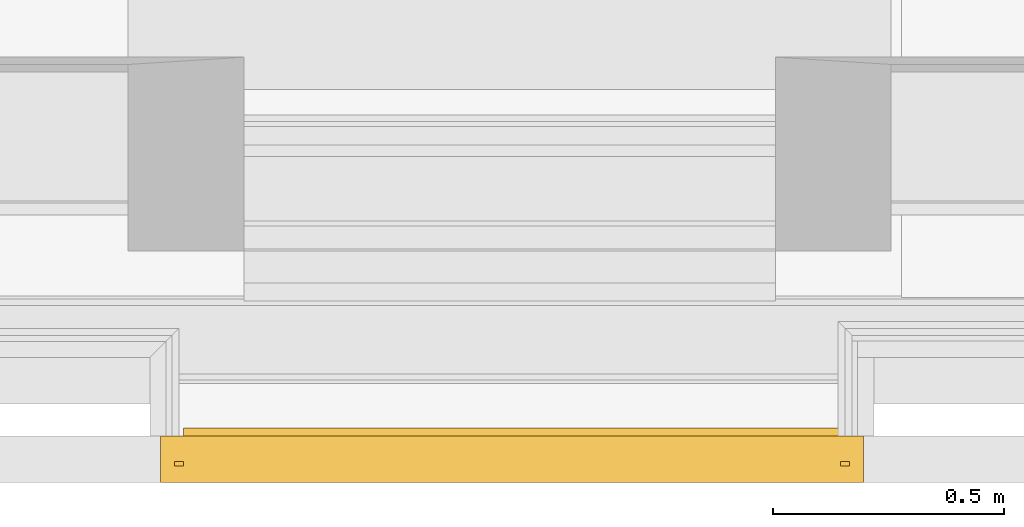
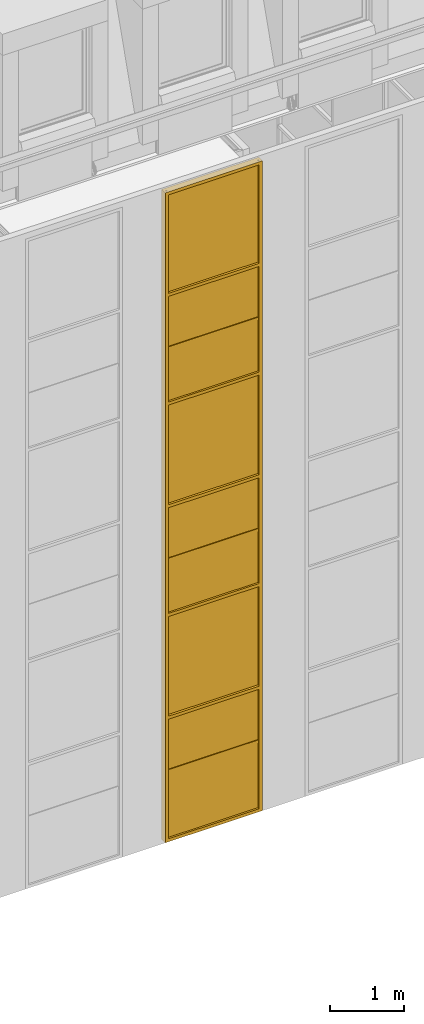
# One storey, part 124 of 169: 1 curtain wall.
"""IFC2X3 building model written with IfcOpenShell, lengths in metres."""

import ifcopenshell
import ifcopenshell.guid

model = None  # the IFC model being written
_history = None  # IfcOwnerHistory: only IFC2X3 demands one
_inside = {}  # id of a spatial element -> (the spatial element, [elements in it])
_under = {}  # id of a project, library or spatial element -> (it, [spatial elements below it])
_declared = {}  # id of a project -> (the project, [libraries it declares])
_typed = {}  # id of a type object -> (the type object, [elements of that type])
_made_of = {}  # id of a material, layer set ... -> (it, [elements and type objects made of it])


def new_model(schema):
    """Start an empty IFC model of exactly this schema.

    Asked for "IFC4X3", IfcOpenShell would pick the latest addendum, in which some entities
    have other attributes; the version numbers below select the first issue.
    IFC2X3 requires an IfcOwnerHistory on every rooted entity: one is made here for all.
    """
    global model, _history
    if schema == "IFC4X3":
        model = ifcopenshell.file(schema_version=(4, 3, 0, 0))
    else:
        model = ifcopenshell.file(schema=schema)
    _inside.clear()
    _under.clear()
    _declared.clear()
    _typed.clear()
    _made_of.clear()
    _history = None
    if model.schema == "IFC2X3":
        org = make("IfcOrganization", Name="unknown")
        user = make(
            "IfcPersonAndOrganization",
            ThePerson=make("IfcPerson", FamilyName="unknown"),
            TheOrganization=org,
        )
        app = make(
            "IfcApplication",
            ApplicationDeveloper=org,
            Version="unknown",
            ApplicationFullName="unknown",
            ApplicationIdentifier="unknown",
        )
        _history = make(
            "IfcOwnerHistory",
            OwningUser=user,
            OwningApplication=app,
            ChangeAction="ADDED",
            CreationDate=0,
        )
    return model


def make(cls, **values):
    """One entity of the class cls with the attributes given. An attribute that is None is left unset."""
    return model.create_entity(
        cls, **{name: value for name, value in values.items() if value is not None}
    )


def entity(cls, *values):
    """Any entity or typed value of the class cls, its attributes in the order of the schema. None: left unset."""
    e = model.create_entity(cls)
    for i, value in enumerate(values):
        if value is not None:
            e[i] = value
    return e


def rooted(cls, **values):
    """An entity with a GlobalId (a new one), such as an element, a storey or a relation."""
    return make(cls, GlobalId=ifcopenshell.guid.new(), OwnerHistory=_history, **values)


def si_unit(unit_type, name, prefix=None):
    """IfcSIUnit, for example si_unit("LENGTHUNIT", "METRE", prefix="MILLI")."""
    return make("IfcSIUnit", UnitType=unit_type, Prefix=prefix, Name=name)


def converted_unit(unit_type, name, factor, base, dimensions=None, offset=None):
    """IfcConversionBasedUnit, such as the inch: factor (a typed value) times the base unit."""
    return make(
        "IfcConversionBasedUnit"
        if offset is None
        else "IfcConversionBasedUnitWithOffset",
        ConversionOffset=offset,
        Dimensions=None
        if dimensions is None
        else entity("IfcDimensionalExponents", *dimensions),
        UnitType=unit_type,
        Name=name,
        ConversionFactor=make(
            "IfcMeasureWithUnit", ValueComponent=factor, UnitComponent=base
        ),
    )


def derived_unit(unit_type, elements):
    """IfcDerivedUnit: a product of units, each with its exponent."""
    return make(
        "IfcDerivedUnit",
        Elements=[
            make("IfcDerivedUnitElement", Unit=unit, Exponent=power)
            for unit, power in elements
        ],
        UnitType=unit_type,
    )


def money_unit(currency):
    """IfcMonetaryUnit."""
    return make("IfcMonetaryUnit", Currency=currency)


def assignment(units):
    """IfcUnitAssignment: the units of a project."""
    return None if units is None else make("IfcUnitAssignment", Units=units)


def point(xyz):
    """IfcCartesianPoint."""
    return None if xyz is None else make("IfcCartesianPoint", Coordinates=xyz)


def direction(xyz):
    """IfcDirection."""
    return None if xyz is None else make("IfcDirection", DirectionRatios=xyz)


def frame(location, z_axis=None, x_axis=None):
    """IfcAxis2Placement3D, a coordinate frame: its origin and axes. An axis left out is left unset."""
    return make(
        "IfcAxis2Placement3D",
        Location=point(location),
        Axis=direction(z_axis),
        RefDirection=direction(x_axis),
    )


def origin_with_axes():
    """The frame at (0, 0, 0) with the z axis (0, 0, 1) and the x axis (1, 0, 0) written out."""
    return frame((0.0, 0.0, 0.0), z_axis=(0.0, 0.0, 1.0), x_axis=(1.0, 0.0, 0.0))


def place(relative_to, where):
    """IfcLocalPlacement: puts the frame where relative to a parent placement (None: the world)."""
    return make(
        "IfcLocalPlacement", PlacementRelTo=relative_to, RelativePlacement=where
    )


def context(
    kind, dimensions, precision=None, world=None, true_north=None, identifier=None
):
    """IfcGeometricRepresentationContext, for example the 3D "Model" context."""
    return make(
        "IfcGeometricRepresentationContext",
        ContextIdentifier=identifier,
        ContextType=kind,
        CoordinateSpaceDimension=dimensions,
        Precision=precision,
        WorldCoordinateSystem=world,
        TrueNorth=true_north,
    )


def subcontext(parent, identifier, kind, view, scale=None):
    """IfcGeometricRepresentationSubContext, for example "Body" below "Model"."""
    return make(
        "IfcGeometricRepresentationSubContext",
        ContextIdentifier=identifier,
        ContextType=kind,
        ParentContext=parent,
        TargetScale=scale,
        TargetView=view,
    )


def project(units=None, contexts=None):
    """IfcProject with its units and contexts."""
    return rooted(
        "IfcProject",
        Name="project",
        RepresentationContexts=contexts,
        UnitsInContext=assignment(units),
    )


def spatial(cls, under=None, at=None, **own):
    """A site, building, storey or space (cls), placed at a placement, below another one or the project."""
    s = rooted(cls, ObjectPlacement=at, **own)
    if under is not None:
        _under.setdefault(under.id(), (under, []))[1].append(s)
    return s


def faces_of(points, faces, orient=None, outer=None):
    """IfcFace entities. A face is a list of loops; a loop is a list of indices into points, from 0.

    orient and outer hold one flag for each loop. By default every Orientation is true, the
    first loop of a face is its IfcFaceOuterBound and the others are IfcFaceBound.
    """
    made = []
    for i, loops in enumerate(faces):
        bounds = []
        for j, loop in enumerate(loops):
            is_outer = j == 0 if outer is None else outer[i][j]
            bounds.append(
                make(
                    "IfcFaceOuterBound" if is_outer else "IfcFaceBound",
                    Bound=make("IfcPolyLoop", Polygon=[points[k] for k in loop]),
                    Orientation=True if orient is None else orient[i][j],
                )
            )
        made.append(make("IfcFace", Bounds=bounds))
    return made


def faceted_brep(points, faces, orient=None, outer=None, voids=None):
    """IfcFacetedBrep: a solid bounded by flat faces; with voids (closed shells), ...WithVoids."""
    shared = [point(p) for p in points]
    hull = make("IfcClosedShell", CfsFaces=faces_of(shared, faces, orient, outer))
    if voids is None:
        return make("IfcFacetedBrep", Outer=hull)
    return make(
        "IfcFacetedBrepWithVoids",
        Outer=hull,
        Voids=[
            make(cls, CfsFaces=faces_of(shared, fs, o, b)) for cls, fs, o, b in voids
        ],
    )


def shape(context_of_items, identifier, shape_type, items):
    """IfcShapeRepresentation: the items that make up one representation, for example the "Body"."""
    return make(
        "IfcShapeRepresentation",
        ContextOfItems=context_of_items,
        RepresentationIdentifier=identifier,
        RepresentationType=shape_type,
        Items=items,
    )


def material(Name=None, Category=None):
    """IfcMaterial."""
    return make("IfcMaterial", Name=Name, Category=Category)


def made_of(thing, what):
    """Note that an element or type object is made of a material, layer set ...; save() writes the relation."""
    if what is not None:
        _made_of.setdefault(what.id(), (what, []))[1].append(thing)
    return thing


def type_object(cls, material=None, **own):
    """A type object (cls), such as IfcWallType, which elements share."""
    return made_of(rooted(cls, **own), material)


def element(
    cls,
    number,
    at=None,
    inside=None,
    cuts=None,
    type_object=None,
    material=None,
    context=None,
    identifier="Body",
    shape_type=None,
    held_by="IfcProductDefinitionShape",
    body=None,
    shapes=None,
    **own,
):
    """One element of the class cls, such as IfcWall. Its Tag is "e" and its number.

    at: its placement. inside: the storey or other place that contains it. cuts: it is an
    opening in that element (IfcRelVoidsElement). A single representation is given by context,
    identifier, shape_type and body (its items); several are given by shapes. held_by: the class
    of the entity that holds the representations. save() writes the other relations.
    """
    e = rooted(cls, Tag="e%d" % number, ObjectPlacement=at, **own)
    if body is not None:
        shapes = [shape(context, identifier, shape_type, body)]
    if shapes is not None:
        e.Representation = make(held_by, Representations=shapes)
    if inside is not None:
        _inside.setdefault(inside.id(), (inside, []))[1].append(e)
    if cuts is not None:
        rooted(
            "IfcRelVoidsElement", RelatingBuildingElement=cuts, RelatedOpeningElement=e
        )
    if type_object is not None:
        _typed.setdefault(type_object.id(), (type_object, []))[1].append(e)
    return made_of(e, material)


def aggregate(whole, parts):
    """IfcRelAggregates: a whole, such as a stair, and the parts it consists of."""
    return rooted("IfcRelAggregates", RelatingObject=whole, RelatedObjects=parts)


def save(model, path):
    """Write the relations noted so far, then the file.

    IfcRelAggregates (storeys below a building ...), IfcRelContainedInSpatialStructure (elements
    in a storey), IfcRelDefinesByType, IfcRelAssociatesMaterial and IfcRelDeclares: one each for
    every whole, place, type object, material and project.
    """
    for whole, parts in _under.values():
        aggregate(whole, parts)
    for where, things in _inside.values():
        rooted(
            "IfcRelContainedInSpatialStructure",
            RelatedElements=things,
            RelatingStructure=where,
        )
    for kind, things in _typed.values():
        rooted("IfcRelDefinesByType", RelatedObjects=things, RelatingType=kind)
    for what, things in _made_of.values():
        rooted("IfcRelAssociatesMaterial", RelatedObjects=things, RelatingMaterial=what)
    for by, libraries in _declared.values():
        rooted("IfcRelDeclares", RelatingContext=by, RelatedDefinitions=libraries)
    model.write(path)


model = new_model("IFC2X3")

# Units and contexts
model_context = context("Model", 3, precision=1e-05, world=origin_with_axes(), true_north=direction((0.0, 1.0)))
body_context = subcontext(model_context, "Body", "Model", "MODEL_VIEW", scale=1.0)
ifc_project = project(units=[si_unit("LENGTHUNIT", "METRE"), si_unit("AREAUNIT", "SQUARE_METRE"), si_unit("VOLUMEUNIT", "CUBIC_METRE"), si_unit("ABSORBEDDOSEUNIT", "GRAY"), si_unit("AMOUNTOFSUBSTANCEUNIT", "MOLE"), si_unit("DOSEEQUIVALENTUNIT", "SIEVERT"), si_unit("ELECTRICCAPACITANCEUNIT", "FARAD"), si_unit("ELECTRICCHARGEUNIT", "COULOMB"), si_unit("ELECTRICCONDUCTANCEUNIT", "SIEMENS"), si_unit("ELECTRICCURRENTUNIT", "AMPERE"), si_unit("ELECTRICRESISTANCEUNIT", "OHM"), si_unit("ELECTRICVOLTAGEUNIT", "VOLT"), si_unit("ENERGYUNIT", "JOULE"), si_unit("FORCEUNIT", "NEWTON"), si_unit("FREQUENCYUNIT", "HERTZ"), si_unit("ILLUMINANCEUNIT", "LUX"), si_unit("INDUCTANCEUNIT", "HENRY"), si_unit("LUMINOUSFLUXUNIT", "LUMEN"), si_unit("LUMINOUSINTENSITYUNIT", "CANDELA"), si_unit("MAGNETICFLUXDENSITYUNIT", "TESLA"), si_unit("MAGNETICFLUXUNIT", "WEBER"), si_unit("MASSUNIT", "GRAM"), converted_unit("PLANEANGLEUNIT", "degree", entity("IfcReal", 0.0174532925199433), si_unit("PLANEANGLEUNIT", "RADIAN"), dimensions=[0, 0, 0, 0, 0, 0, 0]), si_unit("POWERUNIT", "WATT"), si_unit("PRESSUREUNIT", "PASCAL"), si_unit("RADIOACTIVITYUNIT", "BECQUEREL"), si_unit("SOLIDANGLEUNIT", "STERADIAN"), si_unit("THERMODYNAMICTEMPERATUREUNIT", "KELVIN"), si_unit("TIMEUNIT", "SECOND"), derived_unit("ACCELERATIONUNIT", [(si_unit("LENGTHUNIT", "METRE"), 1), (si_unit("TIMEUNIT", "SECOND"), -2)]), derived_unit("ANGULARVELOCITYUNIT", [(converted_unit("PLANEANGLEUNIT", "degree", entity("IfcReal", 0.0174532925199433), si_unit("PLANEANGLEUNIT", "RADIAN"), dimensions=[0, 0, 0, 0, 0, 0, 0]), 1), (si_unit("TIMEUNIT", "SECOND"), -1)]), derived_unit("CURVATUREUNIT", [(converted_unit("PLANEANGLEUNIT", "degree", entity("IfcReal", 0.0174532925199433), si_unit("PLANEANGLEUNIT", "RADIAN"), dimensions=[0, 0, 0, 0, 0, 0, 0]), 1), (si_unit("LENGTHUNIT", "METRE"), -1)]), derived_unit("DYNAMICVISCOSITYUNIT", [(si_unit("PRESSUREUNIT", "PASCAL"), 1), (si_unit("TIMEUNIT", "SECOND"), 1)]), derived_unit("HEATFLUXDENSITYUNIT", [(si_unit("POWERUNIT", "WATT"), 1), (si_unit("LENGTHUNIT", "METRE"), -2)]), derived_unit("HEATINGVALUEUNIT", [(si_unit("ENERGYUNIT", "JOULE"), 1), (si_unit("MASSUNIT", "GRAM"), -1)]), derived_unit("INTEGERCOUNTRATEUNIT", [(si_unit("TIMEUNIT", "SECOND"), -1)]), derived_unit("IONCONCENTRATIONUNIT", [(si_unit("MASSUNIT", "GRAM"), 1), (si_unit("VOLUMEUNIT", "CUBIC_METRE"), -1)]), derived_unit("ISOTHERMALMOISTURECAPACITYUNIT", [(si_unit("VOLUMEUNIT", "CUBIC_METRE"), 1), (si_unit("MASSUNIT", "GRAM"), -1)]), derived_unit("KINEMATICVISCOSITYUNIT", [(si_unit("AREAUNIT", "SQUARE_METRE"), 1), (si_unit("TIMEUNIT", "SECOND"), -1)]), derived_unit("LINEARFORCEUNIT", [(si_unit("FORCEUNIT", "NEWTON"), 1), (si_unit("LENGTHUNIT", "METRE"), -1)]), derived_unit("LINEARMOMENTUNIT", [(si_unit("FORCEUNIT", "NEWTON"), 1), (si_unit("LENGTHUNIT", "METRE"), -1)]), derived_unit("LINEARSTIFFNESSUNIT", [(si_unit("FORCEUNIT", "NEWTON"), 1), (si_unit("LENGTHUNIT", "METRE"), -1)]), derived_unit("LINEARVELOCITYUNIT", [(si_unit("LENGTHUNIT", "METRE"), 1), (si_unit("TIMEUNIT", "SECOND"), -1)]), derived_unit("LUMINOUSINTENSITYDISTRIBUTIONUNIT", [(si_unit("LUMINOUSINTENSITYUNIT", "CANDELA"), 1), (si_unit("LUMINOUSFLUXUNIT", "LUMEN"), -1)]), derived_unit("MASSDENSITYUNIT", [(si_unit("MASSUNIT", "GRAM"), 1), (si_unit("VOLUMEUNIT", "CUBIC_METRE"), -1)]), derived_unit("MASSFLOWRATEUNIT", [(si_unit("MASSUNIT", "GRAM"), 1), (si_unit("TIMEUNIT", "SECOND"), -1)]), derived_unit("MASSPERLENGTHUNIT", [(si_unit("MASSUNIT", "GRAM"), 1), (si_unit("LENGTHUNIT", "METRE"), -1)]), derived_unit("MODULUSOFELASTICITYUNIT", [(si_unit("FORCEUNIT", "NEWTON"), 1), (si_unit("AREAUNIT", "SQUARE_METRE"), -1)]), derived_unit("MODULUSOFLINEARSUBGRADEREACTIONUNIT", [(si_unit("FORCEUNIT", "NEWTON"), 1), (si_unit("LENGTHUNIT", "METRE"), -2)]), derived_unit("MODULUSOFROTATIONALSUBGRADEREACTIONUNIT", [(si_unit("FORCEUNIT", "NEWTON"), 1), (si_unit("LENGTHUNIT", "METRE"), 1)]), derived_unit("MODULUSOFSUBGRADEREACTIONUNIT", [(si_unit("FORCEUNIT", "NEWTON"), 1), (si_unit("VOLUMEUNIT", "CUBIC_METRE"), -1)]), derived_unit("MOISTUREDIFFUSIVITYUNIT", [(si_unit("VOLUMEUNIT", "CUBIC_METRE"), 1), (si_unit("TIMEUNIT", "SECOND"), -1)]), derived_unit("MOLECULARWEIGHTUNIT", [(si_unit("MASSUNIT", "GRAM"), 1), (si_unit("AMOUNTOFSUBSTANCEUNIT", "MOLE"), -1)]), derived_unit("PLANARFORCEUNIT", [(si_unit("FORCEUNIT", "NEWTON"), 1), (si_unit("LENGTHUNIT", "METRE"), -2)]), derived_unit("ROTATIONALFREQUENCYUNIT", [(si_unit("TIMEUNIT", "SECOND"), -1)]), derived_unit("ROTATIONALMASSUNIT", [(si_unit("MASSUNIT", "GRAM"), 1), (si_unit("LENGTHUNIT", "METRE"), 2)]), derived_unit("ROTATIONALSTIFFNESSUNIT", [(si_unit("FORCEUNIT", "NEWTON"), 1), (si_unit("LENGTHUNIT", "METRE"), 1), (converted_unit("PLANEANGLEUNIT", "degree", entity("IfcReal", 0.0174532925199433), si_unit("PLANEANGLEUNIT", "RADIAN"), dimensions=[0, 0, 0, 0, 0, 0, 0]), -1)]), derived_unit("SECTIONAREAINTEGRALUNIT", [(si_unit("LENGTHUNIT", "METRE"), 5)]), derived_unit("SECTIONMODULUSUNIT", [(si_unit("LENGTHUNIT", "METRE"), 3)]), derived_unit("SHEARMODULUSUNIT", [(si_unit("FORCEUNIT", "NEWTON"), 1), (si_unit("AREAUNIT", "SQUARE_METRE"), -1)]), derived_unit("SOUNDPOWERUNIT", [(si_unit("ENERGYUNIT", "JOULE"), 1), (si_unit("TIMEUNIT", "SECOND"), -1)]), derived_unit("SPECIFICHEATCAPACITYUNIT", [(si_unit("FORCEUNIT", "NEWTON"), 1), (si_unit("MASSUNIT", "GRAM"), -1), (si_unit("THERMODYNAMICTEMPERATUREUNIT", "KELVIN"), -1)]), derived_unit("TEMPERATUREGRADIENTUNIT", [(si_unit("THERMODYNAMICTEMPERATUREUNIT", "KELVIN"), 1), (si_unit("LENGTHUNIT", "METRE"), -1)]), derived_unit("THERMALADMITTANCEUNIT", [(si_unit("POWERUNIT", "WATT"), 1), (si_unit("AREAUNIT", "SQUARE_METRE"), -1), (si_unit("THERMODYNAMICTEMPERATUREUNIT", "KELVIN"), -1)]), derived_unit("THERMALCONDUCTANCEUNIT", [(si_unit("POWERUNIT", "WATT"), 1), (si_unit("LENGTHUNIT", "METRE"), -1), (si_unit("THERMODYNAMICTEMPERATUREUNIT", "KELVIN"), -1)]), derived_unit("THERMALEXPANSIONCOEFFICIENTUNIT", [(si_unit("THERMODYNAMICTEMPERATUREUNIT", "KELVIN"), -1)]), derived_unit("THERMALRESISTANCEUNIT", [(si_unit("AREAUNIT", "SQUARE_METRE"), 1), (si_unit("POWERUNIT", "WATT"), -1)]), derived_unit("THERMALTRANSMITTANCEUNIT", [(si_unit("POWERUNIT", "WATT"), 1), (si_unit("AREAUNIT", "SQUARE_METRE"), -1), (si_unit("THERMODYNAMICTEMPERATUREUNIT", "KELVIN"), -1)]), derived_unit("TORQUEUNIT", [(si_unit("FORCEUNIT", "NEWTON"), 1), (si_unit("LENGTHUNIT", "METRE"), 1)]), derived_unit("VAPORPERMEABILITYUNIT", [(si_unit("MASSUNIT", "GRAM"), 1), (si_unit("TIMEUNIT", "SECOND"), -1)]), derived_unit("VOLUMETRICFLOWRATEUNIT", [(si_unit("VOLUMEUNIT", "CUBIC_METRE"), 1), (si_unit("TIMEUNIT", "SECOND"), -1)]), derived_unit("WARPINGCONSTANTUNIT", [(si_unit("LENGTHUNIT", "METRE"), 6)]), derived_unit("WARPINGMOMENTUNIT", [(si_unit("FORCEUNIT", "NEWTON"), 1), (si_unit("LENGTHUNIT", "METRE"), 2)]), money_unit("GBP")], contexts=[model_context])

# Site, building, storey
site_placement = place(None, origin_with_axes())
site = spatial("IfcSite", under=ifc_project, at=site_placement, Name="Site", CompositionType="ELEMENT")
building_placement = place(site_placement, origin_with_axes())
building = spatial("IfcBuilding", under=site, at=building_placement, Name="Building01", CompositionType="ELEMENT")
storey_placement = place(building_placement, frame((0.0, 0.0, 5.15), z_axis=(0.0, 0.0, 1.0), x_axis=(1.0, 0.0, 0.0)))
storey = spatial("IfcBuildingStorey", under=building, at=storey_placement, Name="1F", CompositionType="ELEMENT", Elevation=5.15)

# Curtain wall
ifc_material = material(Name="A-CurtainWall_Frame")
curtain_wall_type = type_object("IfcCurtainWallType", Name="Pattern - Maximum Spacing", PredefinedType="NOTDEFINED")
curtain_wall_placement = place(storey_placement, frame((0.0, 0.0, -5.15), z_axis=(0.0, 0.0, 1.0), x_axis=(1.0, 0.0, 0.0)))
element("IfcCurtainWall", 1, at=curtain_wall_placement, inside=storey, type_object=curtain_wall_type, material=ifc_material, Name="25", ObjectType="Pattern - Maximum Spacing", context=body_context, shape_type="Brep", body=[
    faceted_brep([(20.44, 0.05, 4.0), (20.44, 0.03, 4.0), (20.44, 0.03, 5.118945), (20.44, 0.05, 5.118945), (21.9, 0.05, 4.0), (21.9, 0.03, 4.0), (21.9, 0.05, 5.118945), (21.9, 0.03, 5.118945)], [[[0, 1, 2, 3]], [[4, 5, 1, 0]], [[6, 7, 5, 4]], [[3, 2, 7, 6]], [[1, 5, 7, 2]], [[3, 6, 4, 0]]]),
    faceted_brep([(20.46, 0.045, 3.97), (20.44, 0.045, 3.97), (20.44, 0.035, 3.97), (20.46, 0.035, 3.97), (20.46, 0.0, 3.97), (20.41, 0.0, 3.97), (20.41, 0.1, 3.97), (20.46, 0.1, 3.97), (20.46, 0.1, 5.123945), (20.46, 0.045, 5.123945), (20.44, 0.045, 5.123945), (20.44, 0.035, 5.123945), (20.46, 0.035, 5.123945), (20.46, 0.0, 5.123945), (20.41, 0.0, 5.123945), (20.41, 0.1, 5.123945)], [[[0, 1, 2, 3, 4, 5, 6, 7]], [[7, 8, 9, 0]], [[0, 9, 10, 1]], [[1, 10, 11, 2]], [[2, 11, 12, 3]], [[3, 12, 13, 4]], [[4, 13, 14, 5]], [[5, 14, 15, 6]], [[6, 15, 8, 7]]]),
    faceted_brep([(21.88, 0.045, 4.0), (21.88, 0.035, 4.0), (21.88, 0.035, 4.02), (21.88, 0.0, 4.02), (21.88, 0.0, 3.97), (21.88, 0.1, 3.97), (21.88, 0.1, 4.02), (21.88, 0.045, 4.02), (20.46, 0.045, 4.02), (20.46, 0.045, 4.0), (20.46, 0.035, 4.0), (20.46, 0.035, 4.02), (20.46, 0.0, 4.02), (20.46, 0.0, 3.97), (20.46, 0.1, 3.97), (20.46, 0.1, 4.02)], [[[0, 1, 2, 3, 4, 5, 6, 7]], [[7, 8, 9, 0]], [[0, 9, 10, 1]], [[1, 10, 11, 2]], [[2, 11, 12, 3]], [[3, 12, 13, 4]], [[4, 13, 14, 5]], [[5, 14, 15, 6]], [[6, 15, 8, 7]], [[8, 15, 14, 13, 12, 11, 10, 9]]]),
    faceted_brep([(21.88, 0.045, 3.97), (21.88, 0.045, 5.123945), (21.88, 0.1, 5.123945), (21.88, 0.1, 3.97), (21.9, 0.045, 3.97), (21.9, 0.045, 5.123945), (21.9, 0.035, 3.97), (21.9, 0.035, 5.123945), (21.88, 0.035, 3.97), (21.88, 0.035, 5.123945), (21.88, 0.0, 3.97), (21.88, 0.0, 5.123945), (21.93, 0.0, 3.97), (21.93, 0.0, 5.123945), (21.93, 0.1, 3.97), (21.93, 0.1, 5.123945)], [[[0, 1, 2, 3]], [[4, 5, 1, 0]], [[6, 7, 5, 4]], [[8, 9, 7, 6]], [[10, 11, 9, 8]], [[12, 13, 11, 10]], [[14, 15, 13, 12]], [[3, 2, 15, 14]], [[14, 12, 10, 8, 6, 4, 0, 3]]]),
    faceted_brep([(20.46, 0.0625, 5.118945), (20.46, 0.0525, 5.118945), (20.46, 0.0525, 5.098945), (20.46, 0.0175, 5.098945), (20.46, 0.0175, 5.148945), (20.46, 0.0525, 5.148945), (20.46, 0.0525, 5.128945), (20.46, 0.0625, 5.128945), (20.46, 0.0625, 5.148945), (20.46, 0.1175, 5.148945), (20.46, 0.1175, 5.098945), (20.46, 0.0625, 5.098945), (21.88, 0.0625, 5.098945), (21.88, 0.0625, 5.118945), (21.88, 0.0525, 5.118945), (21.88, 0.0525, 5.098945), (21.88, 0.0175, 5.098945), (21.88, 0.0175, 5.148945), (21.88, 0.0525, 5.148945), (21.88, 0.0625, 5.128945), (21.88, 0.0625, 5.148945), (21.88, 0.0525, 5.128945), (21.88, 0.1175, 5.098945), (21.88, 0.1175, 5.148945)], [[[0, 1, 2, 3, 4, 5, 6, 7, 8, 9, 10, 11]], [[11, 12, 13, 0]], [[0, 13, 14, 1]], [[1, 14, 15, 2]], [[2, 15, 16, 3]], [[3, 16, 17, 4]], [[4, 17, 18, 5]], [[7, 19, 20, 8]], [[6, 21, 19, 7]], [[5, 18, 21, 6]], [[10, 22, 12, 11]], [[9, 23, 22, 10]], [[8, 20, 23, 9]], [[20, 19, 21, 18, 17, 16, 15, 14, 13, 12, 22, 23]]]),
    faceted_brep([(20.44, 0.05, 5.128945), (20.44, 0.03, 5.128945), (20.44, 0.03, 6.018105), (20.44, 0.05, 6.018105), (21.9, 0.05, 5.128945), (21.9, 0.03, 5.128945), (21.9, 0.05, 6.018105), (21.9, 0.03, 6.018105)], [[[0, 1, 2, 3]], [[4, 5, 1, 0]], [[6, 7, 5, 4]], [[3, 2, 7, 6]], [[1, 5, 7, 2]], [[3, 6, 4, 0]]]),
    faceted_brep([(20.41, 0.1, 6.023105), (20.41, 0.1, 5.123945), (20.41, 0.0, 5.123945), (20.41, 0.0, 6.023105), (20.46, 0.1, 6.023105), (20.46, 0.1, 5.123945), (20.46, 0.045, 6.023105), (20.46, 0.045, 5.123945), (20.44, 0.045, 6.023105), (20.44, 0.045, 5.123945), (20.44, 0.035, 6.023105), (20.44, 0.035, 5.123945), (20.46, 0.035, 6.023105), (20.46, 0.035, 5.123945), (20.46, 0.0, 6.023105), (20.46, 0.0, 5.123945)], [[[0, 1, 2, 3]], [[4, 5, 1, 0]], [[6, 7, 5, 4]], [[8, 9, 7, 6]], [[10, 11, 9, 8]], [[12, 13, 11, 10]], [[14, 15, 13, 12]], [[3, 2, 15, 14]]]),
    faceted_brep([(21.88, 0.045, 5.123945), (21.88, 0.045, 6.023105), (21.88, 0.1, 6.023105), (21.88, 0.1, 5.123945), (21.9, 0.045, 5.123945), (21.9, 0.045, 6.023105), (21.9, 0.035, 5.123945), (21.9, 0.035, 6.023105), (21.88, 0.035, 5.123945), (21.88, 0.035, 6.023105), (21.88, 0.0, 5.123945), (21.88, 0.0, 6.023105), (21.93, 0.0, 5.123945), (21.93, 0.0, 6.023105), (21.93, 0.1, 5.123945), (21.93, 0.1, 6.023105)], [[[0, 1, 2, 3]], [[4, 5, 1, 0]], [[6, 7, 5, 4]], [[8, 9, 7, 6]], [[10, 11, 9, 8]], [[12, 13, 11, 10]], [[14, 15, 13, 12]], [[3, 2, 15, 14]]]),
    faceted_brep([(20.46, 0.045, 6.018105), (20.46, 0.035, 6.018105), (20.46, 0.035, 5.998105), (20.46, 0.0, 5.998105), (20.46, 0.0, 6.048105), (20.46, 0.035, 6.048105), (20.46, 0.035, 6.028105), (20.46, 0.045, 6.028105), (20.46, 0.045, 6.048105), (20.46, 0.1, 6.048105), (20.46, 0.1, 5.998105), (20.46, 0.045, 5.998105), (21.88, 0.045, 5.998105), (21.88, 0.045, 6.018105), (21.88, 0.035, 6.018105), (21.88, 0.035, 5.998105), (21.88, 0.0, 5.998105), (21.88, 0.0, 6.048105), (21.88, 0.035, 6.048105), (21.88, 0.045, 6.028105), (21.88, 0.045, 6.048105), (21.88, 0.035, 6.028105), (21.88, 0.1, 5.998105), (21.88, 0.1, 6.048105)], [[[0, 1, 2, 3, 4, 5, 6, 7, 8, 9, 10, 11]], [[11, 12, 13, 0]], [[0, 13, 14, 1]], [[1, 14, 15, 2]], [[2, 15, 16, 3]], [[3, 16, 17, 4]], [[4, 17, 18, 5]], [[7, 19, 20, 8]], [[6, 21, 19, 7]], [[5, 18, 21, 6]], [[10, 22, 12, 11]], [[9, 23, 22, 10]], [[8, 20, 23, 9]], [[20, 19, 21, 18, 17, 16, 15, 14, 13, 12, 22, 23]]]),
    faceted_brep([(20.44, 0.045, 6.028105), (20.44, 0.035, 6.028105), (20.44, 0.035, 7.716517), (20.44, 0.045, 7.716517), (21.9, 0.045, 6.028105), (21.9, 0.035, 6.028105), (21.9, 0.045, 7.716517), (21.9, 0.035, 7.716517)], [[[0, 1, 2, 3]], [[4, 5, 1, 0]], [[6, 7, 5, 4]], [[3, 2, 7, 6]], [[1, 5, 7, 2]], [[3, 6, 4, 0]]]),
    faceted_brep([(20.41, 0.1, 7.721517), (20.41, 0.1, 6.023105), (20.41, 0.0, 6.023105), (20.41, 0.0, 7.721517), (20.46, 0.1, 7.721517), (20.46, 0.1, 6.023105), (20.46, 0.045, 7.721517), (20.46, 0.045, 6.023105), (20.44, 0.045, 7.721517), (20.44, 0.045, 6.023105), (20.44, 0.035, 7.721517), (20.44, 0.035, 6.023105), (20.46, 0.035, 7.721517), (20.46, 0.035, 6.023105), (20.46, 0.0, 7.721517), (20.46, 0.0, 6.023105)], [[[0, 1, 2, 3]], [[4, 5, 1, 0]], [[6, 7, 5, 4]], [[8, 9, 7, 6]], [[10, 11, 9, 8]], [[12, 13, 11, 10]], [[14, 15, 13, 12]], [[3, 2, 15, 14]]]),
    faceted_brep([(21.88, 0.045, 6.023105), (21.88, 0.045, 7.721517), (21.88, 0.1, 7.721517), (21.88, 0.1, 6.023105), (21.9, 0.045, 6.023105), (21.9, 0.045, 7.721517), (21.9, 0.035, 6.023105), (21.9, 0.035, 7.721517), (21.88, 0.035, 6.023105), (21.88, 0.035, 7.721517), (21.88, 0.0, 6.023105), (21.88, 0.0, 7.721517), (21.93, 0.0, 6.023105), (21.93, 0.0, 7.721517), (21.93, 0.1, 6.023105), (21.93, 0.1, 7.721517)], [[[0, 1, 2, 3]], [[4, 5, 1, 0]], [[6, 7, 5, 4]], [[8, 9, 7, 6]], [[10, 11, 9, 8]], [[12, 13, 11, 10]], [[14, 15, 13, 12]], [[3, 2, 15, 14]]]),
    faceted_brep([(20.46, 0.045, 7.716517), (20.46, 0.035, 7.716517), (20.46, 0.035, 7.696517), (20.46, 0.0, 7.696517), (20.46, 0.0, 7.746517), (20.46, 0.035, 7.746517), (20.46, 0.035, 7.726517), (20.46, 0.045, 7.726517), (20.46, 0.045, 7.746517), (20.46, 0.1, 7.746517), (20.46, 0.1, 7.696517), (20.46, 0.045, 7.696517), (21.88, 0.045, 7.696517), (21.88, 0.045, 7.716517), (21.88, 0.035, 7.716517), (21.88, 0.035, 7.696517), (21.88, 0.0, 7.696517), (21.88, 0.0, 7.746517), (21.88, 0.035, 7.746517), (21.88, 0.045, 7.726517), (21.88, 0.045, 7.746517), (21.88, 0.035, 7.726517), (21.88, 0.1, 7.696517), (21.88, 0.1, 7.746517)], [[[0, 1, 2, 3, 4, 5, 6, 7, 8, 9, 10, 11]], [[11, 12, 13, 0]], [[0, 13, 14, 1]], [[1, 14, 15, 2]], [[2, 15, 16, 3]], [[3, 16, 17, 4]], [[4, 17, 18, 5]], [[7, 19, 20, 8]], [[6, 21, 19, 7]], [[5, 18, 21, 6]], [[10, 22, 12, 11]], [[9, 23, 22, 10]], [[8, 20, 23, 9]], [[20, 19, 21, 18, 17, 16, 15, 14, 13, 12, 22, 23]]]),
    faceted_brep([(20.44, 0.05, 7.726517), (20.44, 0.03, 7.726517), (20.44, 0.03, 8.615677), (20.44, 0.05, 8.615677), (21.9, 0.05, 7.726517), (21.9, 0.03, 7.726517), (21.9, 0.05, 8.615677), (21.9, 0.03, 8.615677)], [[[0, 1, 2, 3]], [[4, 5, 1, 0]], [[6, 7, 5, 4]], [[3, 2, 7, 6]], [[1, 5, 7, 2]], [[3, 6, 4, 0]]]),
    faceted_brep([(20.41, 0.1, 8.620677), (20.41, 0.1, 7.721517), (20.41, 0.0, 7.721517), (20.41, 0.0, 8.620677), (20.46, 0.1, 8.620677), (20.46, 0.1, 7.721517), (20.46, 0.045, 8.620677), (20.46, 0.045, 7.721517), (20.44, 0.045, 8.620677), (20.44, 0.045, 7.721517), (20.44, 0.035, 8.620677), (20.44, 0.035, 7.721517), (20.46, 0.035, 8.620677), (20.46, 0.035, 7.721517), (20.46, 0.0, 8.620677), (20.46, 0.0, 7.721517)], [[[0, 1, 2, 3]], [[4, 5, 1, 0]], [[6, 7, 5, 4]], [[8, 9, 7, 6]], [[10, 11, 9, 8]], [[12, 13, 11, 10]], [[14, 15, 13, 12]], [[3, 2, 15, 14]]]),
    faceted_brep([(21.88, 0.045, 7.721517), (21.88, 0.045, 8.620677), (21.88, 0.1, 8.620677), (21.88, 0.1, 7.721517), (21.9, 0.045, 7.721517), (21.9, 0.045, 8.620677), (21.9, 0.035, 7.721517), (21.9, 0.035, 8.620677), (21.88, 0.035, 7.721517), (21.88, 0.035, 8.620677), (21.88, 0.0, 7.721517), (21.88, 0.0, 8.620677), (21.93, 0.0, 7.721517), (21.93, 0.0, 8.620677), (21.93, 0.1, 7.721517), (21.93, 0.1, 8.620677)], [[[0, 1, 2, 3]], [[4, 5, 1, 0]], [[6, 7, 5, 4]], [[8, 9, 7, 6]], [[10, 11, 9, 8]], [[12, 13, 11, 10]], [[14, 15, 13, 12]], [[3, 2, 15, 14]]]),
    faceted_brep([(20.46, 0.0625, 8.615677), (20.46, 0.0525, 8.615677), (20.46, 0.0525, 8.595677), (20.46, 0.0175, 8.595677), (20.46, 0.0175, 8.645677), (20.46, 0.0525, 8.645677), (20.46, 0.0525, 8.625677), (20.46, 0.0625, 8.625677), (20.46, 0.0625, 8.645677), (20.46, 0.1175, 8.645677), (20.46, 0.1175, 8.595677), (20.46, 0.0625, 8.595677), (21.88, 0.0625, 8.595677), (21.88, 0.0625, 8.615677), (21.88, 0.0525, 8.615677), (21.88, 0.0525, 8.595677), (21.88, 0.0175, 8.595677), (21.88, 0.0175, 8.645677), (21.88, 0.0525, 8.645677), (21.88, 0.0625, 8.625677), (21.88, 0.0625, 8.645677), (21.88, 0.0525, 8.625677), (21.88, 0.1175, 8.595677), (21.88, 0.1175, 8.645677)], [[[0, 1, 2, 3, 4, 5, 6, 7, 8, 9, 10, 11]], [[11, 12, 13, 0]], [[0, 13, 14, 1]], [[1, 14, 15, 2]], [[2, 15, 16, 3]], [[3, 16, 17, 4]], [[4, 17, 18, 5]], [[7, 19, 20, 8]], [[6, 21, 19, 7]], [[5, 18, 21, 6]], [[10, 22, 12, 11]], [[9, 23, 22, 10]], [[8, 20, 23, 9]], [[20, 19, 21, 18, 17, 16, 15, 14, 13, 12, 22, 23]]]),
    faceted_brep([(20.44, 0.05, 8.625677), (20.44, 0.03, 8.625677), (20.44, 0.03, 9.514837), (20.44, 0.05, 9.514837), (21.9, 0.05, 8.625677), (21.9, 0.03, 8.625677), (21.9, 0.05, 9.514837), (21.9, 0.03, 9.514837)], [[[0, 1, 2, 3]], [[4, 5, 1, 0]], [[6, 7, 5, 4]], [[3, 2, 7, 6]], [[1, 5, 7, 2]], [[3, 6, 4, 0]]]),
    faceted_brep([(20.41, 0.1, 9.519837), (20.41, 0.1, 8.620677), (20.41, 0.0, 8.620677), (20.41, 0.0, 9.519837), (20.46, 0.1, 9.519837), (20.46, 0.1, 8.620677), (20.46, 0.045, 9.519837), (20.46, 0.045, 8.620677), (20.44, 0.045, 9.519837), (20.44, 0.045, 8.620677), (20.44, 0.035, 9.519837), (20.44, 0.035, 8.620677), (20.46, 0.035, 9.519837), (20.46, 0.035, 8.620677), (20.46, 0.0, 9.519837), (20.46, 0.0, 8.620677)], [[[0, 1, 2, 3]], [[4, 5, 1, 0]], [[6, 7, 5, 4]], [[8, 9, 7, 6]], [[10, 11, 9, 8]], [[12, 13, 11, 10]], [[14, 15, 13, 12]], [[3, 2, 15, 14]]]),
    faceted_brep([(21.88, 0.045, 8.620677), (21.88, 0.045, 9.519837), (21.88, 0.1, 9.519837), (21.88, 0.1, 8.620677), (21.9, 0.045, 8.620677), (21.9, 0.045, 9.519837), (21.9, 0.035, 8.620677), (21.9, 0.035, 9.519837), (21.88, 0.035, 8.620677), (21.88, 0.035, 9.519837), (21.88, 0.0, 8.620677), (21.88, 0.0, 9.519837), (21.93, 0.0, 8.620677), (21.93, 0.0, 9.519837), (21.93, 0.1, 8.620677), (21.93, 0.1, 9.519837)], [[[0, 1, 2, 3]], [[4, 5, 1, 0]], [[6, 7, 5, 4]], [[8, 9, 7, 6]], [[10, 11, 9, 8]], [[12, 13, 11, 10]], [[14, 15, 13, 12]], [[3, 2, 15, 14]]]),
    faceted_brep([(20.46, 0.045, 9.514837), (20.46, 0.035, 9.514837), (20.46, 0.035, 9.494837), (20.46, 0.0, 9.494837), (20.46, 0.0, 9.544837), (20.46, 0.035, 9.544837), (20.46, 0.035, 9.524837), (20.46, 0.045, 9.524837), (20.46, 0.045, 9.544837), (20.46, 0.1, 9.544837), (20.46, 0.1, 9.494837), (20.46, 0.045, 9.494837), (21.88, 0.045, 9.494837), (21.88, 0.045, 9.514837), (21.88, 0.035, 9.514837), (21.88, 0.035, 9.494837), (21.88, 0.0, 9.494837), (21.88, 0.0, 9.544837), (21.88, 0.035, 9.544837), (21.88, 0.045, 9.524837), (21.88, 0.045, 9.544837), (21.88, 0.035, 9.524837), (21.88, 0.1, 9.494837), (21.88, 0.1, 9.544837)], [[[0, 1, 2, 3, 4, 5, 6, 7, 8, 9, 10, 11]], [[11, 12, 13, 0]], [[0, 13, 14, 1]], [[1, 14, 15, 2]], [[2, 15, 16, 3]], [[3, 16, 17, 4]], [[4, 17, 18, 5]], [[7, 19, 20, 8]], [[6, 21, 19, 7]], [[5, 18, 21, 6]], [[10, 22, 12, 11]], [[9, 23, 22, 10]], [[8, 20, 23, 9]], [[20, 19, 21, 18, 17, 16, 15, 14, 13, 12, 22, 23]]]),
    faceted_brep([(20.44, 0.045, 9.524837), (20.44, 0.035, 9.524837), (20.44, 0.035, 11.213249), (20.44, 0.045, 11.213249), (21.9, 0.045, 9.524837), (21.9, 0.035, 9.524837), (21.9, 0.045, 11.213249), (21.9, 0.035, 11.213249)], [[[0, 1, 2, 3]], [[4, 5, 1, 0]], [[6, 7, 5, 4]], [[3, 2, 7, 6]], [[1, 5, 7, 2]], [[3, 6, 4, 0]]]),
    faceted_brep([(20.41, 0.1, 11.218249), (20.41, 0.1, 9.519837), (20.41, 0.0, 9.519837), (20.41, 0.0, 11.218249), (20.46, 0.1, 11.218249), (20.46, 0.1, 9.519837), (20.46, 0.045, 11.218249), (20.46, 0.045, 9.519837), (20.44, 0.045, 11.218249), (20.44, 0.045, 9.519837), (20.44, 0.035, 11.218249), (20.44, 0.035, 9.519837), (20.46, 0.035, 11.218249), (20.46, 0.035, 9.519837), (20.46, 0.0, 11.218249), (20.46, 0.0, 9.519837)], [[[0, 1, 2, 3]], [[4, 5, 1, 0]], [[6, 7, 5, 4]], [[8, 9, 7, 6]], [[10, 11, 9, 8]], [[12, 13, 11, 10]], [[14, 15, 13, 12]], [[3, 2, 15, 14]]]),
    faceted_brep([(21.88, 0.045, 9.519837), (21.88, 0.045, 11.218249), (21.88, 0.1, 11.218249), (21.88, 0.1, 9.519837), (21.9, 0.045, 9.519837), (21.9, 0.045, 11.218249), (21.9, 0.035, 9.519837), (21.9, 0.035, 11.218249), (21.88, 0.035, 9.519837), (21.88, 0.035, 11.218249), (21.88, 0.0, 9.519837), (21.88, 0.0, 11.218249), (21.93, 0.0, 9.519837), (21.93, 0.0, 11.218249), (21.93, 0.1, 9.519837), (21.93, 0.1, 11.218249)], [[[0, 1, 2, 3]], [[4, 5, 1, 0]], [[6, 7, 5, 4]], [[8, 9, 7, 6]], [[10, 11, 9, 8]], [[12, 13, 11, 10]], [[14, 15, 13, 12]], [[3, 2, 15, 14]]]),
    faceted_brep([(20.46, 0.045, 11.213249), (20.46, 0.035, 11.213249), (20.46, 0.035, 11.193249), (20.46, 0.0, 11.193249), (20.46, 0.0, 11.243249), (20.46, 0.035, 11.243249), (20.46, 0.035, 11.223249), (20.46, 0.045, 11.223249), (20.46, 0.045, 11.243249), (20.46, 0.1, 11.243249), (20.46, 0.1, 11.193249), (20.46, 0.045, 11.193249), (21.88, 0.045, 11.193249), (21.88, 0.045, 11.213249), (21.88, 0.035, 11.213249), (21.88, 0.035, 11.193249), (21.88, 0.0, 11.193249), (21.88, 0.0, 11.243249), (21.88, 0.035, 11.243249), (21.88, 0.045, 11.223249), (21.88, 0.045, 11.243249), (21.88, 0.035, 11.223249), (21.88, 0.1, 11.193249), (21.88, 0.1, 11.243249)], [[[0, 1, 2, 3, 4, 5, 6, 7, 8, 9, 10, 11]], [[11, 12, 13, 0]], [[0, 13, 14, 1]], [[1, 14, 15, 2]], [[2, 15, 16, 3]], [[3, 16, 17, 4]], [[4, 17, 18, 5]], [[7, 19, 20, 8]], [[6, 21, 19, 7]], [[5, 18, 21, 6]], [[10, 22, 12, 11]], [[9, 23, 22, 10]], [[8, 20, 23, 9]], [[20, 19, 21, 18, 17, 16, 15, 14, 13, 12, 22, 23]]]),
    faceted_brep([(20.44, 0.05, 11.223249), (20.44, 0.03, 11.223249), (20.44, 0.03, 12.112409), (20.44, 0.05, 12.112409), (21.9, 0.05, 11.223249), (21.9, 0.03, 11.223249), (21.9, 0.05, 12.112409), (21.9, 0.03, 12.112409)], [[[0, 1, 2, 3]], [[4, 5, 1, 0]], [[6, 7, 5, 4]], [[3, 2, 7, 6]], [[1, 5, 7, 2]], [[3, 6, 4, 0]]]),
    faceted_brep([(20.41, 0.1, 12.117409), (20.41, 0.1, 11.218249), (20.41, 0.0, 11.218249), (20.41, 0.0, 12.117409), (20.46, 0.1, 12.117409), (20.46, 0.1, 11.218249), (20.46, 0.045, 12.117409), (20.46, 0.045, 11.218249), (20.44, 0.045, 12.117409), (20.44, 0.045, 11.218249), (20.44, 0.035, 12.117409), (20.44, 0.035, 11.218249), (20.46, 0.035, 12.117409), (20.46, 0.035, 11.218249), (20.46, 0.0, 12.117409), (20.46, 0.0, 11.218249)], [[[0, 1, 2, 3]], [[4, 5, 1, 0]], [[6, 7, 5, 4]], [[8, 9, 7, 6]], [[10, 11, 9, 8]], [[12, 13, 11, 10]], [[14, 15, 13, 12]], [[3, 2, 15, 14]]]),
    faceted_brep([(21.88, 0.045, 11.218249), (21.88, 0.045, 12.117409), (21.88, 0.1, 12.117409), (21.88, 0.1, 11.218249), (21.9, 0.045, 11.218249), (21.9, 0.045, 12.117409), (21.9, 0.035, 11.218249), (21.9, 0.035, 12.117409), (21.88, 0.035, 11.218249), (21.88, 0.035, 12.117409), (21.88, 0.0, 11.218249), (21.88, 0.0, 12.117409), (21.93, 0.0, 11.218249), (21.93, 0.0, 12.117409), (21.93, 0.1, 11.218249), (21.93, 0.1, 12.117409)], [[[0, 1, 2, 3]], [[4, 5, 1, 0]], [[6, 7, 5, 4]], [[8, 9, 7, 6]], [[10, 11, 9, 8]], [[12, 13, 11, 10]], [[14, 15, 13, 12]], [[3, 2, 15, 14]]]),
    faceted_brep([(20.46, 0.0625, 12.112409), (20.46, 0.0525, 12.112409), (20.46, 0.0525, 12.092409), (20.46, 0.0175, 12.092409), (20.46, 0.0175, 12.142409), (20.46, 0.0525, 12.142409), (20.46, 0.0525, 12.122409), (20.46, 0.0625, 12.122409), (20.46, 0.0625, 12.142409), (20.46, 0.1175, 12.142409), (20.46, 0.1175, 12.092409), (20.46, 0.0625, 12.092409), (21.88, 0.0625, 12.092409), (21.88, 0.0625, 12.112409), (21.88, 0.0525, 12.112409), (21.88, 0.0525, 12.092409), (21.88, 0.0175, 12.092409), (21.88, 0.0175, 12.142409), (21.88, 0.0525, 12.142409), (21.88, 0.0625, 12.122409), (21.88, 0.0625, 12.142409), (21.88, 0.0525, 12.122409), (21.88, 0.1175, 12.092409), (21.88, 0.1175, 12.142409)], [[[0, 1, 2, 3, 4, 5, 6, 7, 8, 9, 10, 11]], [[11, 12, 13, 0]], [[0, 13, 14, 1]], [[1, 14, 15, 2]], [[2, 15, 16, 3]], [[3, 16, 17, 4]], [[4, 17, 18, 5]], [[7, 19, 20, 8]], [[6, 21, 19, 7]], [[5, 18, 21, 6]], [[10, 22, 12, 11]], [[9, 23, 22, 10]], [[8, 20, 23, 9]], [[20, 19, 21, 18, 17, 16, 15, 14, 13, 12, 22, 23]]]),
    faceted_brep([(21.9, 0.045, 14.69), (21.9, 0.035, 14.69), (21.9, 0.035, 13.021569), (21.9, 0.045, 13.021569), (20.44, 0.045, 14.69), (20.44, 0.035, 14.69), (20.44, 0.045, 13.021569), (20.44, 0.035, 13.021569)], [[[0, 1, 2, 3]], [[4, 5, 1, 0]], [[6, 7, 5, 4]], [[3, 2, 7, 6]], [[1, 5, 7, 2]], [[3, 6, 4, 0]]]),
    faceted_brep([(21.88, 0.045, 14.72), (21.9, 0.045, 14.72), (21.9, 0.035, 14.72), (21.88, 0.035, 14.72), (21.88, 0.0, 14.72), (21.93, 0.0, 14.72), (21.93, 0.1, 14.72), (21.88, 0.1, 14.72), (21.88, 0.1, 13.016569), (21.88, 0.045, 13.016569), (21.9, 0.045, 13.016569), (21.9, 0.035, 13.016569), (21.88, 0.035, 13.016569), (21.88, 0.0, 13.016569), (21.93, 0.0, 13.016569), (21.93, 0.1, 13.016569)], [[[0, 1, 2, 3, 4, 5, 6, 7]], [[7, 8, 9, 0]], [[0, 9, 10, 1]], [[1, 10, 11, 2]], [[2, 11, 12, 3]], [[3, 12, 13, 4]], [[4, 13, 14, 5]], [[5, 14, 15, 6]], [[6, 15, 8, 7]]]),
    faceted_brep([(20.46, 0.1, 14.67), (20.46, 0.045, 14.67), (20.46, 0.045, 14.69), (20.46, 0.035, 14.69), (20.46, 0.035, 14.67), (20.46, 0.0, 14.67), (20.46, 0.0, 14.72), (20.46, 0.1, 14.72), (21.88, 0.1, 14.72), (21.88, 0.1, 14.67), (21.88, 0.045, 14.67), (21.88, 0.045, 14.69), (21.88, 0.035, 14.69), (21.88, 0.035, 14.67), (21.88, 0.0, 14.67), (21.88, 0.0, 14.72)], [[[0, 1, 2, 3, 4, 5, 6, 7]], [[7, 8, 9, 0]], [[0, 9, 10, 1]], [[1, 10, 11, 2]], [[2, 11, 12, 3]], [[3, 12, 13, 4]], [[4, 13, 14, 5]], [[5, 14, 15, 6]], [[6, 15, 8, 7]], [[8, 15, 14, 13, 12, 11, 10, 9]]]),
    faceted_brep([(20.46, 0.045, 14.72), (20.46, 0.045, 13.016569), (20.46, 0.1, 13.016569), (20.46, 0.1, 14.72), (20.44, 0.045, 14.72), (20.44, 0.045, 13.016569), (20.44, 0.035, 14.72), (20.44, 0.035, 13.016569), (20.46, 0.035, 14.72), (20.46, 0.035, 13.016569), (20.46, 0.0, 14.72), (20.46, 0.0, 13.016569), (20.41, 0.0, 14.72), (20.41, 0.0, 13.016569), (20.41, 0.1, 14.72), (20.41, 0.1, 13.016569)], [[[0, 1, 2, 3]], [[4, 5, 1, 0]], [[6, 7, 5, 4]], [[8, 9, 7, 6]], [[10, 11, 9, 8]], [[12, 13, 11, 10]], [[14, 15, 13, 12]], [[3, 2, 15, 14]], [[14, 12, 10, 8, 6, 4, 0, 3]]]),
    faceted_brep([(21.88, 0.035, 13.011569), (21.88, 0.045, 13.011569), (21.88, 0.045, 12.991569), (21.88, 0.1, 12.991569), (21.88, 0.1, 13.041569), (21.88, 0.045, 13.041569), (21.88, 0.045, 13.021569), (21.88, 0.035, 13.021569), (21.88, 0.035, 13.041569), (21.88, 0.0, 13.041569), (21.88, 0.0, 12.991569), (21.88, 0.035, 12.991569), (20.46, 0.035, 12.991569), (20.46, 0.035, 13.011569), (20.46, 0.045, 13.011569), (20.46, 0.045, 12.991569), (20.46, 0.1, 12.991569), (20.46, 0.1, 13.041569), (20.46, 0.045, 13.041569), (20.46, 0.035, 13.021569), (20.46, 0.035, 13.041569), (20.46, 0.045, 13.021569), (20.46, 0.0, 12.991569), (20.46, 0.0, 13.041569)], [[[0, 1, 2, 3, 4, 5, 6, 7, 8, 9, 10, 11]], [[11, 12, 13, 0]], [[0, 13, 14, 1]], [[1, 14, 15, 2]], [[2, 15, 16, 3]], [[3, 16, 17, 4]], [[4, 17, 18, 5]], [[7, 19, 20, 8]], [[6, 21, 19, 7]], [[5, 18, 21, 6]], [[10, 22, 12, 11]], [[9, 23, 22, 10]], [[8, 20, 23, 9]], [[20, 19, 21, 18, 17, 16, 15, 14, 13, 12, 22, 23]]]),
    faceted_brep([(20.44, 0.05, 12.122409), (20.44, 0.03, 12.122409), (20.44, 0.03, 13.011569), (20.44, 0.05, 13.011569), (21.9, 0.05, 12.122409), (21.9, 0.03, 12.122409), (21.9, 0.05, 13.011569), (21.9, 0.03, 13.011569)], [[[0, 1, 2, 3]], [[4, 5, 1, 0]], [[6, 7, 5, 4]], [[3, 2, 7, 6]], [[1, 5, 7, 2]], [[3, 6, 4, 0]]]),
    faceted_brep([(20.41, 0.1, 13.016569), (20.41, 0.1, 12.117409), (20.41, 0.0, 12.117409), (20.41, 0.0, 13.016569), (20.46, 0.1, 13.016569), (20.46, 0.1, 12.117409), (20.46, 0.045, 13.016569), (20.46, 0.045, 12.117409), (20.44, 0.045, 13.016569), (20.44, 0.045, 12.117409), (20.44, 0.035, 13.016569), (20.44, 0.035, 12.117409), (20.46, 0.035, 13.016569), (20.46, 0.035, 12.117409), (20.46, 0.0, 13.016569), (20.46, 0.0, 12.117409)], [[[0, 1, 2, 3]], [[4, 5, 1, 0]], [[6, 7, 5, 4]], [[8, 9, 7, 6]], [[10, 11, 9, 8]], [[12, 13, 11, 10]], [[14, 15, 13, 12]], [[3, 2, 15, 14]]]),
    faceted_brep([(21.88, 0.045, 12.117409), (21.88, 0.045, 13.016569), (21.88, 0.1, 13.016569), (21.88, 0.1, 12.117409), (21.9, 0.045, 12.117409), (21.9, 0.045, 13.016569), (21.9, 0.035, 12.117409), (21.9, 0.035, 13.016569), (21.88, 0.035, 12.117409), (21.88, 0.035, 13.016569), (21.88, 0.0, 12.117409), (21.88, 0.0, 13.016569), (21.93, 0.0, 12.117409), (21.93, 0.0, 13.016569), (21.93, 0.1, 12.117409), (21.93, 0.1, 13.016569)], [[[0, 1, 2, 3]], [[4, 5, 1, 0]], [[6, 7, 5, 4]], [[8, 9, 7, 6]], [[10, 11, 9, 8]], [[12, 13, 11, 10]], [[14, 15, 13, 12]], [[3, 2, 15, 14]]]),
])

save(model, "model.ifc")
